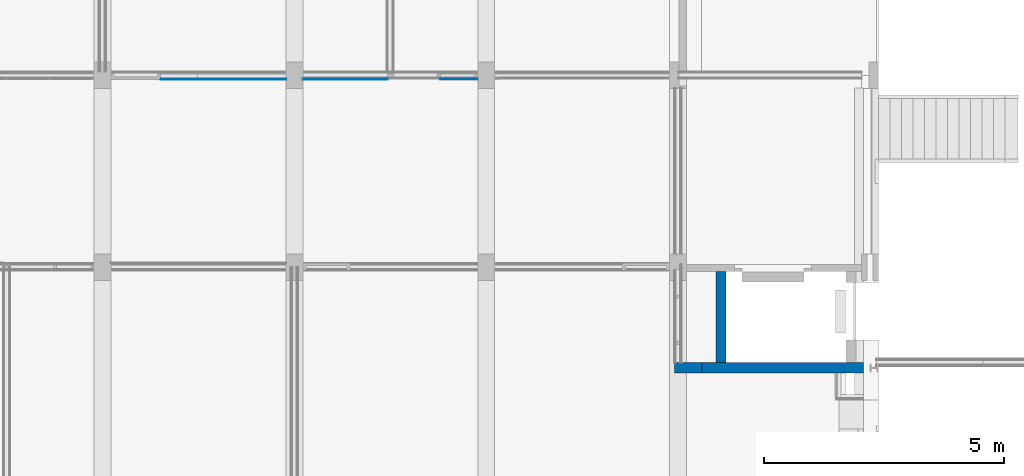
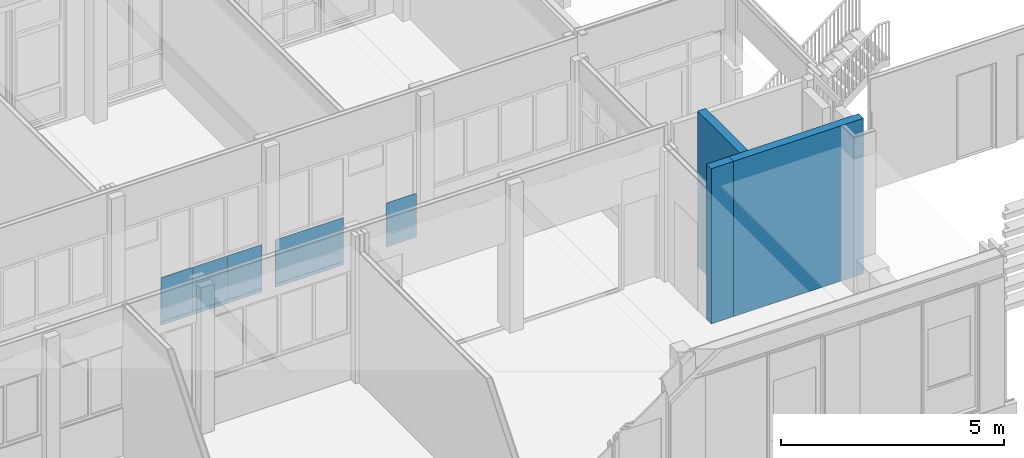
# One storey, part 26 of 94: 10 walls.
"""IFC2X3 building model written with IfcOpenShell, lengths in millimetres."""

from ifc_helpers import new_model, entity, si_unit, converted_unit, derived_unit, money_unit, direction, frame, origin_with_axes, place, context, subcontext, project, spatial, faceted_brep, material, type_object, element, save


model = new_model("IFC2X3")

# Units and contexts
model_context = context("Model", 3, precision=0.01, world=origin_with_axes(), true_north=direction((0.0, 1.0)))
body_context = subcontext(model_context, "Body", "Model", "MODEL_VIEW")
ifc_project = project(units=[si_unit("LENGTHUNIT", "METRE", prefix="MILLI"), si_unit("AREAUNIT", "SQUARE_METRE"), si_unit("VOLUMEUNIT", "CUBIC_METRE"), converted_unit("PLANEANGLEUNIT", "DEGREE", entity("IfcPlaneAngleMeasure", 0.0174532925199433), si_unit("PLANEANGLEUNIT", "RADIAN"), dimensions=[0, 0, 0, 0, 0, 0, 0]), money_unit("EUR"), converted_unit("TIMEUNIT", "Year", entity("IfcTimeMeasure", 31557600.0), si_unit("TIMEUNIT", "SECOND"), dimensions=[0, 0, 1, 0, 0, 0, 0]), si_unit("MASSUNIT", "GRAM", prefix="KILO"), si_unit("THERMODYNAMICTEMPERATUREUNIT", "DEGREE_CELSIUS"), si_unit("LUMINOUSINTENSITYUNIT", "LUMEN"), si_unit("ENERGYUNIT", "JOULE", prefix="MEGA"), derived_unit("THERMALCONDUCTANCEUNIT", [(si_unit("POWERUNIT", "WATT"), 1), (si_unit("LENGTHUNIT", "METRE"), -1), (si_unit("THERMODYNAMICTEMPERATUREUNIT", "KELVIN"), -1)]), derived_unit("SPECIFICHEATCAPACITYUNIT", [(si_unit("ENERGYUNIT", "JOULE"), 1), (si_unit("MASSUNIT", "GRAM", prefix="KILO"), -1), (si_unit("THERMODYNAMICTEMPERATUREUNIT", "KELVIN"), -1)]), derived_unit("MASSDENSITYUNIT", [(si_unit("MASSUNIT", "GRAM", prefix="KILO"), 1), (si_unit("VOLUMEUNIT", "CUBIC_METRE"), -1)])], contexts=[model_context])

# Site, building, storey
site_placement = place(None, origin_with_axes())
site = spatial("IfcSite", under=ifc_project, at=site_placement, Name="<site naam>", CompositionType="ELEMENT")
building_placement = place(site_placement, origin_with_axes())
building = spatial("IfcBuilding", under=site, at=building_placement, Name="<Naam gebouw>", CompositionType="ELEMENT")
storey_placement = place(building_placement, frame((0.0, 0.0, 4250.0), z_axis=(0.0, 0.0, 1.0), x_axis=(1.0, 0.0, 0.0)))
storey = spatial("IfcBuildingStorey", under=building, at=storey_placement, Name="01 1e verdieping", CompositionType="ELEMENT", Elevation=4250.0)

# Walls
ifc_material_1 = material(Name="kalkzandsteen")
wall_type_1 = type_object("IfcWallType", Name="kalkzandsteen 214", PredefinedType="NOTDEFINED")
wall_1_placement = place(storey_placement, frame((51865.00000000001, 6004.999998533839, 0.0), z_axis=(0.0, 0.0, 1.0), x_axis=(-1.0, 0.0, 0.0)))
element("IfcWall", 1, at=wall_1_placement, inside=storey, type_object=wall_type_1, material=ifc_material_1, Name="22_Binnenwand_kalkzandsteen", context=body_context, shape_type="Brep", body=[
    faceted_brep([(0.0, 0.0, 4250.0), (3364.999999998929, 0.0, 4250.0), (3364.999999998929, 214.0000000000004, 4250.0), (0.0, 214.0000000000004, 4250.0), (0.0, 0.0, 0.0), (3364.999999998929, 0.0, 0.0), (3364.999999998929, 213.9999999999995, 0.0), (0.0, 214.0000000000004, 0.0)], [[[0, 1, 2, 3]], [[4, 5, 1, 0]], [[2, 1, 5, 6]], [[3, 2, 6, 7]], [[4, 0, 3, 7]], [[7, 6, 5, 4]]]),
])
wall_2_placement = place(storey_placement, frame((49000.00000000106, 6004.999998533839, 0.0), z_axis=(0.0, 0.0, 1.0), x_axis=(0.0, 1.0, 0.0)))
element("IfcWall", 2, at=wall_2_placement, inside=storey, type_object=wall_type_1, material=ifc_material_1, Name="22_Binnenwand_kalkzandsteen", context=body_context, shape_type="Brep", body=[
    faceted_brep([(1900.0, 0.0, 4250.0), (1900.0, 213.9999999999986, 4250.0), (0.0, 213.9999999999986, 4250.0), (0.0, 0.0, 4250.0), (1900.0, 0.0, 0.0), (1900.0, 213.9999999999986, 0.0), (0.0, 213.9999999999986, 0.0), (0.0, 0.0, 0.0)], [[[0, 1, 2, 3]], [[1, 0, 4, 5]], [[1, 5, 6, 2]], [[7, 3, 2, 6]], [[4, 0, 3, 7]], [[5, 4, 7, 6]]]),
])
wall_3_placement = place(storey_placement, frame((48500.00000000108, 6004.999998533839, 0.0), z_axis=(0.0, 0.0, 1.0), x_axis=(-1.0, 0.0, 0.0)))
element("IfcWall", 3, at=wall_3_placement, inside=storey, type_object=wall_type_1, material=ifc_material_1, Name="22_Binnenwand_kalkzandsteen", context=body_context, shape_type="Brep", body=[
    faceted_brep([(0.0, 0.0, 4250.0), (575.0000000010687, 0.0, 4250.0), (575.0000000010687, 214.0000000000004, 4250.0), (0.0, 214.0000000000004, 4250.0), (0.0, 0.0, 0.0), (575.0000000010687, 0.0, 0.0), (575.0000000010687, 213.9999999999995, 0.0), (0.0, 214.0000000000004, 0.0)], [[[0, 1, 2, 3]], [[4, 5, 1, 0]], [[2, 1, 5, 6]], [[3, 2, 6, 7]], [[4, 0, 3, 7]], [[7, 6, 5, 4]]]),
])
ifc_material_2 = material(Name="ALG - BUITENAFWERKING")
wall_type_2 = type_object("IfcWallType", Name="ALG - BUITENAFWERKING 10", PredefinedType="NOTDEFINED")
wall_4_placement = place(storey_placement, frame((41941.26997527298, 11925.00000000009, 99.99999999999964), z_axis=(0.0, 0.0, 1.0), x_axis=(-1.0, 0.0, 0.0)))
element("IfcWall", 4, at=wall_4_placement, inside=storey, type_object=wall_type_2, material=ifc_material_2, Name="42_Binnenwand_ALG", context=body_context, shape_type="Brep", body=[
    faceted_brep([(0.0, 0.0, 1200.0), (1766.134987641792, 0.0, 1200.0), (1766.134987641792, 9.999999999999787, 1200.0), (0.0, 9.999999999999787, 1200.0), (0.0, 0.0, 0.0), (1766.134987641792, 0.0, 0.0), (1766.134987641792, 9.999999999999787, 0.0), (0.0, 9.999999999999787, 0.0)], [[[0, 1, 2, 3]], [[4, 5, 1, 0]], [[2, 1, 5, 6]], [[3, 2, 6, 7]], [[4, 0, 3, 7]], [[7, 6, 5, 4]]]),
])
wall_5_placement = place(storey_placement, frame((43042.26997527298, 11925.00000000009, 99.99999999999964), z_axis=(0.0, 0.0, 1.0), x_axis=(1.0, 0.0, 0.0)))
element("IfcWall", 5, at=wall_5_placement, inside=storey, type_object=wall_type_2, material=ifc_material_2, Name="42_Binnenwand_ALG", context=body_context, shape_type="Brep", body=[
    faceted_brep([(0.0, 0.0, 0.0), (782.6640309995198, 0.0, 0.0), (782.6640309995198, -9.999999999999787, 0.0), (0.0, -9.999999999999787, 0.0), (0.0, 0.0, 1200.0), (782.6640309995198, 0.0, 1200.0), (782.6640309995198, -9.999999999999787, 1200.0), (0.0, -9.999999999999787, 1200.0)], [[[0, 1, 2, 3]], [[4, 5, 1, 0]], [[2, 1, 5, 6]], [[3, 2, 6, 7]], [[4, 0, 3, 7]], [[7, 6, 5, 4]]]),
])
wall_6_placement = place(storey_placement, frame((38046.65715850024, 11925.00000000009, 99.99999999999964), z_axis=(0.0, 0.0, 1.0), x_axis=(-1.0, 0.0, 0.0)))
element("IfcWall", 6, at=wall_6_placement, inside=storey, type_object=wall_type_2, material=ifc_material_2, Name="42_Binnenwand_ALG", context=body_context, shape_type="Brep", body=[
    faceted_brep([(0.0, 0.0, 1200.0), (837.6571584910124, 0.0, 1200.0), (837.6571584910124, 9.999999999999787, 1200.0), (0.0, 9.999999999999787, 1200.0), (0.0, 0.0, 0.0), (837.6571584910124, 0.0, 0.0), (837.6571584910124, 9.999999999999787, 0.0), (0.0, 9.999999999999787, 0.0)], [[[0, 1, 2, 3]], [[4, 5, 1, 0]], [[2, 1, 5, 6]], [[3, 2, 6, 7]], [[4, 0, 3, 7]], [[7, 6, 5, 4]]]),
])
wall_7_placement = place(storey_placement, frame((38912.02032899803, 11925.00000000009, 99.99999999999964), z_axis=(0.0, 0.0, 1.0), x_axis=(-1.0, 0.0, 0.0)))
element("IfcWall", 7, at=wall_7_placement, inside=storey, type_object=wall_type_2, material=ifc_material_2, Name="42_Binnenwand_ALG", context=body_context, shape_type="Brep", body=[
    faceted_brep([(0.0, 0.0, 1200.0), (853.5641250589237, 0.0, 1200.0), (853.5641250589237, 9.999999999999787, 1200.0), (0.0, 9.999999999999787, 1200.0), (0.0, 0.0, 0.0), (853.5641250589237, 0.0, 0.0), (853.5641250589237, 9.999999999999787, 0.0), (0.0, 9.999999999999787, 0.0)], [[[0, 1, 2, 3]], [[4, 5, 1, 0]], [[2, 1, 5, 6]], [[3, 2, 6, 7]], [[4, 0, 3, 7]], [[7, 6, 5, 4]]]),
])
wall_8_placement = place(storey_placement, frame((39825.00000000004, 11925.00000000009, 99.99999999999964), z_axis=(0.0, 0.0, 1.0), x_axis=(-1.0, 0.0, 0.0)))
element("IfcWall", 8, at=wall_8_placement, inside=storey, type_object=wall_type_2, material=ifc_material_2, Name="42_Binnenwand_ALG", context=body_context, shape_type="Brep", body=[
    faceted_brep([(0.0, 0.0, 1200.0), (896.4838534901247, 0.0, 1200.0), (896.4838534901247, 9.999999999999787, 1200.0), (0.0, 9.999999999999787, 1200.0), (0.0, 0.0, 0.0), (896.4838534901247, 0.0, 0.0), (896.4838534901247, 9.999999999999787, 0.0), (0.0, 9.999999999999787, 0.0)], [[[0, 1, 2, 3]], [[4, 5, 1, 0]], [[2, 1, 5, 6]], [[3, 2, 6, 7]], [[4, 0, 3, 7]], [[7, 6, 5, 4]]]),
])
wall_type_3 = type_object("IfcWallType", Name="ALG - BUITENAFWERKING 15", PredefinedType="NOTDEFINED")
wall_9_placement = place(storey_placement, frame((40175.00000000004, 11925.00000000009, 0.0), z_axis=(0.0, 0.0, 1.0), x_axis=(1.0, 0.0, 0.0)))
element("IfcWall", 9, at=wall_9_placement, inside=storey, type_object=wall_type_3, material=ifc_material_2, Name="42_Binnenwand_ALG", context=body_context, shape_type="Brep", body=[
    faceted_brep([(1766.269975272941, -15.00000000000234, 3.000000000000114), (1766.269975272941, -2.908502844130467, 3.000000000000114), (1766.269975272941, -2.908502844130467, 0.0), (1766.269975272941, 0.0, 0.0), (1766.269975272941, 0.0, 99.99999999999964), (1766.269975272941, -15.00000000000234, 99.99999999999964), (0.0, -2.908502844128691, 3.000000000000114), (0.0, -15.00000000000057, 3.000000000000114), (0.0, -2.908502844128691, 0.0), (0.0, 0.0, 0.0), (0.0, 0.0, 99.99999999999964), (0.0, -15.00000000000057, 99.99999999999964)], [[[0, 1, 2, 3, 4, 5]], [[6, 1, 0, 7]], [[8, 2, 1, 6]], [[3, 2, 8, 9]], [[9, 10, 4, 3]], [[10, 11, 5, 4]], [[11, 7, 0, 5]], [[8, 6, 7, 11, 10, 9]]]),
])
wall_10_placement = place(storey_placement, frame((37209.00000000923, 11925.00000000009, 0.0), z_axis=(0.0, 0.0, 1.0), x_axis=(1.0, 0.0, 0.0)))
element("IfcWall", 10, at=wall_10_placement, inside=storey, type_object=wall_type_3, material=ifc_material_2, Name="42_Binnenwand_ALG", context=body_context, shape_type="Brep", body=[
    faceted_brep([(2615.999999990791, -15.00000000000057, 3.000000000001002), (2615.999999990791, -2.908502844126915, 3.000000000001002), (2615.999999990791, -2.908502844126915, 0.0), (2615.999999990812, 0.0, 0.0), (2615.999999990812, 0.0, 99.99999999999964), (2615.999999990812, -15.00000000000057, 99.99999999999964), (0.0, -2.908502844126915, 3.000000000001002), (0.0, -15.00000000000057, 3.000000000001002), (0.0, -2.908502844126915, 0.0), (0.0, 0.0, 0.0), (0.0, 0.0, 99.99999999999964), (0.0, -15.00000000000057, 99.99999999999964)], [[[0, 1, 2, 3, 4, 5]], [[6, 1, 0, 7]], [[8, 2, 1, 6]], [[3, 2, 8, 9]], [[9, 10, 4, 3]], [[10, 11, 5, 4]], [[11, 7, 0, 5]], [[8, 6, 7, 11, 10, 9]]]),
])

save(model, "model.ifc")
